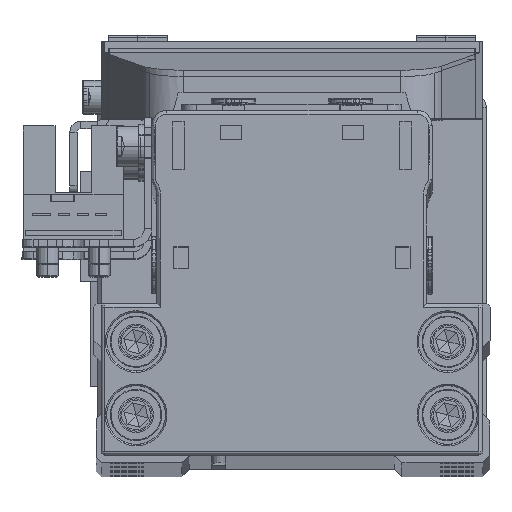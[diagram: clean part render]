
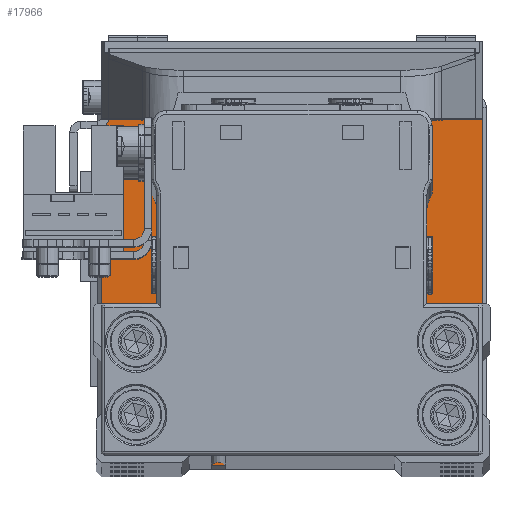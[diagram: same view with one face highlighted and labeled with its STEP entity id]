
A CAD part, top view. The second image highlights one B-rep face of the part: STEP entity #17966.
In plain terms, the highlighted planar face has unit normal (0, 0, 1).
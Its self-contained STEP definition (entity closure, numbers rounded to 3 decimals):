
#67 = CARTESIAN_POINT ( 'NONE',  ( 25., 23.95, 6.5 ) ) ;
#437 = DIRECTION ( 'NONE',  ( -1., 0., 0. ) ) ;
#567 = EDGE_LOOP ( 'NONE', ( #18555, #29277 ) ) ;
#590 = VERTEX_POINT ( 'NONE', #2607 ) ;
#734 = EDGE_CURVE ( 'NONE', #13246, #15046, #18917, .T. ) ;
#1208 = CARTESIAN_POINT ( 'NONE',  ( -25., -24.95, 6.5 ) ) ;
#1553 = VERTEX_POINT ( 'NONE', #19155 ) ;
#1833 = AXIS2_PLACEMENT_3D ( 'NONE', #15936, #26721, #2522 ) ;
#1917 = CIRCLE ( 'NONE', #21654, 2.4 ) ;
#2211 = DIRECTION ( 'NONE',  ( 0., 0., 1. ) ) ;
#2275 = DIRECTION ( 'NONE',  ( 0., -1., 0. ) ) ;
#2522 = DIRECTION ( 'NONE',  ( 1., 0., 0. ) ) ;
#2607 = CARTESIAN_POINT ( 'NONE',  ( 23.65, 9.95, 6.5 ) ) ;
#2754 = DIRECTION ( 'NONE',  ( -1., 0., 0. ) ) ;
#2940 = CARTESIAN_POINT ( 'NONE',  ( 25., -23.95, 6.5 ) ) ;
#3213 = CARTESIAN_POINT ( 'NONE',  ( -23.65, 9.95, 6.5 ) ) ;
#3275 = DIRECTION ( 'NONE',  ( -1., 0., 0. ) ) ;
#3560 = EDGE_LOOP ( 'NONE', ( #19659, #25306 ) ) ;
#3668 = AXIS2_PLACEMENT_3D ( 'NONE', #16715, #27489, #3275 ) ;
#3752 = CARTESIAN_POINT ( 'NONE',  ( 21.25, 9.95, 6.5 ) ) ;
#4031 = AXIS2_PLACEMENT_3D ( 'NONE', #13874, #24671, #437 ) ;
#4191 = EDGE_CURVE ( 'NONE', #5128, #18230, #15696, .T. ) ;
#4213 = CARTESIAN_POINT ( 'NONE',  ( 21.25, 19.95, 6.5 ) ) ;
#4428 = EDGE_CURVE ( 'NONE', #26085, #590, #4476, .T. ) ;
#4476 = CIRCLE ( 'NONE', #24234, 2.4 ) ;
#4535 = AXIS2_PLACEMENT_3D ( 'NONE', #3752, #14518, #25308 ) ;
#4711 = AXIS2_PLACEMENT_3D ( 'NONE', #2940, #13712, #24513 ) ;
#4748 = EDGE_CURVE ( 'NONE', #31285, #10550, #7879, .T. ) ;
#4773 = EDGE_CURVE ( 'NONE', #16607, #1553, #16184, .T. ) ;
#4832 = EDGE_CURVE ( 'NONE', #24092, #28991, #19265, .T. ) ;
#4961 = DIRECTION ( 'NONE',  ( 1., 0., 0. ) ) ;
#5128 = VERTEX_POINT ( 'NONE', #15779 ) ;
#5613 = VERTEX_POINT ( 'NONE', #27306 ) ;
#5984 = DIRECTION ( 'NONE',  ( 0., 1., 0. ) ) ;
#6311 = DIRECTION ( 'NONE',  ( 0., 0., -1. ) ) ;
#6380 = CARTESIAN_POINT ( 'NONE',  ( 21.25, 19.95, 6.5 ) ) ;
#6768 = ORIENTED_EDGE ( 'NONE', *, *, #4832, .T. ) ;
#7609 = PLANE ( 'NONE',  #8129 ) ;
#7879 = LINE ( 'NONE', #18664, #33374 ) ;
#8129 = AXIS2_PLACEMENT_3D ( 'NONE', #18396, #29177, #4961 ) ;
#9730 = CIRCLE ( 'NONE', #29499, 2.4 ) ;
#9927 = EDGE_CURVE ( 'NONE', #1553, #5128, #27810, .T. ) ;
#9984 = EDGE_CURVE ( 'NONE', #5613, #16607, #32824, .T. ) ;
#10242 = FACE_BOUND ( 'NONE', #31797, .T. ) ;
#10292 = CIRCLE ( 'NONE', #30046, 2.4 ) ;
#10308 = DIRECTION ( 'NONE',  ( -1., 0., 0. ) ) ;
#10333 = DIRECTION ( 'NONE',  ( 0., 0., -1. ) ) ;
#10465 = EDGE_CURVE ( 'NONE', #24935, #5613, #19421, .T. ) ;
#10550 = VERTEX_POINT ( 'NONE', #17115 ) ;
#10839 = DIRECTION ( 'NONE',  ( 0., 0., 1. ) ) ;
#12581 = AXIS2_PLACEMENT_3D ( 'NONE', #26424, #2211, #12972 ) ;
#12729 = ORIENTED_EDGE ( 'NONE', *, *, #4748, .T. ) ;
#12767 = ORIENTED_EDGE ( 'NONE', *, *, #17254, .T. ) ;
#12972 = DIRECTION ( 'NONE',  ( 1., 0., 0. ) ) ;
#13246 = VERTEX_POINT ( 'NONE', #3213 ) ;
#13712 = DIRECTION ( 'NONE',  ( 0., 0., 1. ) ) ;
#13874 = CARTESIAN_POINT ( 'NONE',  ( -21.25, 19.95, 6.5 ) ) ;
#14262 = EDGE_LOOP ( 'NONE', ( #24305, #6768 ) ) ;
#14518 = DIRECTION ( 'NONE',  ( 0., 0., -1. ) ) ;
#14985 = DIRECTION ( 'NONE',  ( 0., 0., -1. ) ) ;
#15046 = VERTEX_POINT ( 'NONE', #22283 ) ;
#15547 = CARTESIAN_POINT ( 'NONE',  ( 25., 24.95, 6.5 ) ) ;
#15696 = LINE ( 'NONE', #26485, #28151 ) ;
#15779 = CARTESIAN_POINT ( 'NONE',  ( -26., 23.95, 6.5 ) ) ;
#15936 = CARTESIAN_POINT ( 'NONE',  ( -25., -23.95, 6.5 ) ) ;
#16184 = LINE ( 'NONE', #26959, #31697 ) ;
#16223 = EDGE_CURVE ( 'NONE', #18230, #31285, #17046, .T. ) ;
#16414 = EDGE_CURVE ( 'NONE', #33504, #19767, #10292, .T. ) ;
#16607 = VERTEX_POINT ( 'NONE', #15547 ) ;
#16715 = CARTESIAN_POINT ( 'NONE',  ( -21.25, 9.95, 6.5 ) ) ;
#16927 = ORIENTED_EDGE ( 'NONE', *, *, #16223, .T. ) ;
#17046 = CIRCLE ( 'NONE', #1833, 1. ) ;
#17096 = DIRECTION ( 'NONE',  ( -1., 0., 0. ) ) ;
#17115 = CARTESIAN_POINT ( 'NONE',  ( 25., -24.95, 6.5 ) ) ;
#17155 = DIRECTION ( 'NONE',  ( 0., 0., -1. ) ) ;
#17254 = EDGE_CURVE ( 'NONE', #10550, #24935, #19936, .T. ) ;
#17530 = ORIENTED_EDGE ( 'NONE', *, *, #4773, .T. ) ;
#17538 = EDGE_CURVE ( 'NONE', #15046, #13246, #1917, .T. ) ;
#17596 = AXIS2_PLACEMENT_3D ( 'NONE', #67, #10839, #22106 ) ;
#17966 = ADVANCED_FACE ( 'NONE', ( #23685, #34469, #10242, #21050, #31833 ), #7609, .T. ) ;
#18230 = VERTEX_POINT ( 'NONE', #21543 ) ;
#18396 = CARTESIAN_POINT ( 'NONE',  ( 0., 0., 6.5 ) ) ;
#18514 = EDGE_CURVE ( 'NONE', #19767, #33504, #29055, .T. ) ;
#18555 = ORIENTED_EDGE ( 'NONE', *, *, #18514, .T. ) ;
#18664 = CARTESIAN_POINT ( 'NONE',  ( 25., -24.95, 6.5 ) ) ;
#18917 = CIRCLE ( 'NONE', #3668, 2.4 ) ;
#19155 = CARTESIAN_POINT ( 'NONE',  ( -25., 24.95, 6.5 ) ) ;
#19265 = CIRCLE ( 'NONE', #4031, 2.4 ) ;
#19421 = LINE ( 'NONE', #30209, #22131 ) ;
#19659 = ORIENTED_EDGE ( 'NONE', *, *, #4428, .T. ) ;
#19758 = CIRCLE ( 'NONE', #4535, 2.4 ) ;
#19767 = VERTEX_POINT ( 'NONE', #24939 ) ;
#19936 = CIRCLE ( 'NONE', #4711, 1. ) ;
#20958 = ORIENTED_EDGE ( 'NONE', *, *, #4191, .T. ) ;
#21050 = FACE_BOUND ( 'NONE', #14262, .T. ) ;
#21133 = DIRECTION ( 'NONE',  ( -1., 0., 0. ) ) ;
#21543 = CARTESIAN_POINT ( 'NONE',  ( -26., -23.95, 6.5 ) ) ;
#21654 = AXIS2_PLACEMENT_3D ( 'NONE', #34556, #10333, #21133 ) ;
#22106 = DIRECTION ( 'NONE',  ( 1., 0., 0. ) ) ;
#22131 = VECTOR ( 'NONE', #5984, 1000. ) ;
#22283 = CARTESIAN_POINT ( 'NONE',  ( -18.85, 9.95, 6.5 ) ) ;
#23685 = FACE_BOUND ( 'NONE', #567, .T. ) ;
#23740 = CARTESIAN_POINT ( 'NONE',  ( -21.25, 19.95, 6.5 ) ) ;
#24092 = VERTEX_POINT ( 'NONE', #24814 ) ;
#24234 = AXIS2_PLACEMENT_3D ( 'NONE', #30530, #6311, #17096 ) ;
#24305 = ORIENTED_EDGE ( 'NONE', *, *, #32402, .T. ) ;
#24513 = DIRECTION ( 'NONE',  ( 1., 0., 0. ) ) ;
#24649 = EDGE_CURVE ( 'NONE', #590, #26085, #19758, .T. ) ;
#24671 = DIRECTION ( 'NONE',  ( 0., 0., -1. ) ) ;
#24814 = CARTESIAN_POINT ( 'NONE',  ( -18.85, 19.95, 6.5 ) ) ;
#24935 = VERTEX_POINT ( 'NONE', #29703 ) ;
#24939 = CARTESIAN_POINT ( 'NONE',  ( 18.85, 19.95, 6.5 ) ) ;
#25306 = ORIENTED_EDGE ( 'NONE', *, *, #24649, .T. ) ;
#25308 = DIRECTION ( 'NONE',  ( -1., 0., 0. ) ) ;
#25779 = DIRECTION ( 'NONE',  ( -1., 0., 0. ) ) ;
#26085 = VERTEX_POINT ( 'NONE', #30670 ) ;
#26424 = CARTESIAN_POINT ( 'NONE',  ( -25., 23.95, 6.5 ) ) ;
#26485 = CARTESIAN_POINT ( 'NONE',  ( -26., -23.95, 6.5 ) ) ;
#26721 = DIRECTION ( 'NONE',  ( 0., 0., 1. ) ) ;
#26959 = CARTESIAN_POINT ( 'NONE',  ( -25., 24.95, 6.5 ) ) ;
#27109 = ORIENTED_EDGE ( 'NONE', *, *, #9984, .T. ) ;
#27174 = ORIENTED_EDGE ( 'NONE', *, *, #10465, .T. ) ;
#27306 = CARTESIAN_POINT ( 'NONE',  ( 26., 23.95, 6.5 ) ) ;
#27489 = DIRECTION ( 'NONE',  ( 0., 0., -1. ) ) ;
#27810 = CIRCLE ( 'NONE', #12581, 1. ) ;
#27942 = DIRECTION ( 'NONE',  ( -1., 0., 0. ) ) ;
#28099 = EDGE_LOOP ( 'NONE', ( #32165, #20958, #16927, #12729, #12767, #27174, #27109, #17530 ) ) ;
#28151 = VECTOR ( 'NONE', #2275, 1000. ) ;
#28581 = ORIENTED_EDGE ( 'NONE', *, *, #734, .T. ) ;
#28991 = VERTEX_POINT ( 'NONE', #31578 ) ;
#29055 = CIRCLE ( 'NONE', #33573, 2.4 ) ;
#29177 = DIRECTION ( 'NONE',  ( 0., 0., 1. ) ) ;
#29277 = ORIENTED_EDGE ( 'NONE', *, *, #16414, .T. ) ;
#29450 = DIRECTION ( 'NONE',  ( 1., 0., 0. ) ) ;
#29499 = AXIS2_PLACEMENT_3D ( 'NONE', #23740, #34528, #10308 ) ;
#29703 = CARTESIAN_POINT ( 'NONE',  ( 26., -23.95, 6.5 ) ) ;
#30046 = AXIS2_PLACEMENT_3D ( 'NONE', #6380, #17155, #27942 ) ;
#30209 = CARTESIAN_POINT ( 'NONE',  ( 26., 23.95, 6.5 ) ) ;
#30478 = CARTESIAN_POINT ( 'NONE',  ( 23.65, 19.95, 6.5 ) ) ;
#30530 = CARTESIAN_POINT ( 'NONE',  ( 21.25, 9.95, 6.5 ) ) ;
#30670 = CARTESIAN_POINT ( 'NONE',  ( 18.85, 9.95, 6.5 ) ) ;
#31285 = VERTEX_POINT ( 'NONE', #1208 ) ;
#31578 = CARTESIAN_POINT ( 'NONE',  ( -23.65, 19.95, 6.5 ) ) ;
#31697 = VECTOR ( 'NONE', #2754, 1000. ) ;
#31797 = EDGE_LOOP ( 'NONE', ( #28581, #32679 ) ) ;
#31833 = FACE_OUTER_BOUND ( 'NONE', #28099, .T. ) ;
#32165 = ORIENTED_EDGE ( 'NONE', *, *, #9927, .T. ) ;
#32402 = EDGE_CURVE ( 'NONE', #28991, #24092, #9730, .T. ) ;
#32679 = ORIENTED_EDGE ( 'NONE', *, *, #17538, .T. ) ;
#32824 = CIRCLE ( 'NONE', #17596, 1. ) ;
#33374 = VECTOR ( 'NONE', #29450, 1000. ) ;
#33504 = VERTEX_POINT ( 'NONE', #30478 ) ;
#33573 = AXIS2_PLACEMENT_3D ( 'NONE', #4213, #14985, #25779 ) ;
#34469 = FACE_BOUND ( 'NONE', #3560, .T. ) ;
#34528 = DIRECTION ( 'NONE',  ( 0., 0., -1. ) ) ;
#34556 = CARTESIAN_POINT ( 'NONE',  ( -21.25, 9.95, 6.5 ) ) ;
